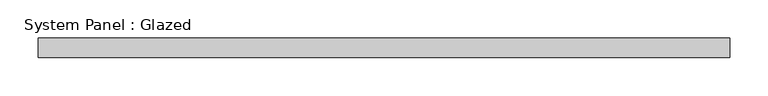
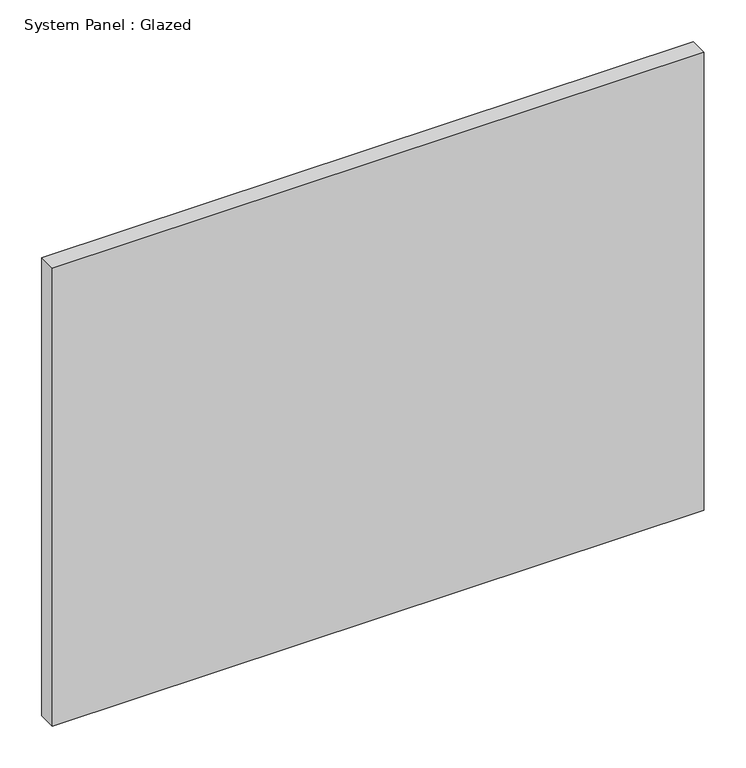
"""IFC4 building model written with IfcOpenShell, lengths in millimetres: plate geometry, System Panel : Glazed."""

from ifc_helpers import new_model, si_unit, origin, origin_with_axes, place, context, project, spatial, polyline, outline, extrude, source, transform, mapped, element, save


def system_panel_glazed_31697946(model_context):
    return source(origin(), model_context, "Body", "SweptSolid", [
        extrude(outline(polyline([(451.3791667, -44.45), (-451.3791667, -44.45), (-451.3791667, -19.05), (451.3791667, -19.05), (451.3791667, -44.45)])), origin_with_axes(), (0.0, 0.0, 1.0), 670.4526365),
    ])


if __name__ == "__main__":
    model = new_model("IFC4")
    model_context = context("Model", 3, world=origin())
    ifc_project = project(units=[si_unit("LENGTHUNIT", "METRE", prefix="MILLI")], contexts=[model_context])
    site = spatial("IfcSite", under=ifc_project)
    building = spatial("IfcBuilding", under=site)
    placement = place(None, origin())
    system_panel_glazed_shape = system_panel_glazed_31697946(model_context)
    element("IfcPlate", 1, ObjectType="System Panel : Glazed", at=placement, inside=building, context=model_context, shape_type="MappedRepresentation", body=[
        mapped(system_panel_glazed_shape, transform((0.0, 0.0, 0.0), x_axis=(1.0, 0.0, 0.0), y_axis=(0.0, 1.0, 0.0), z_axis=(0.0, 0.0, 1.0))),
    ])
    save(model, "model.ifc")
